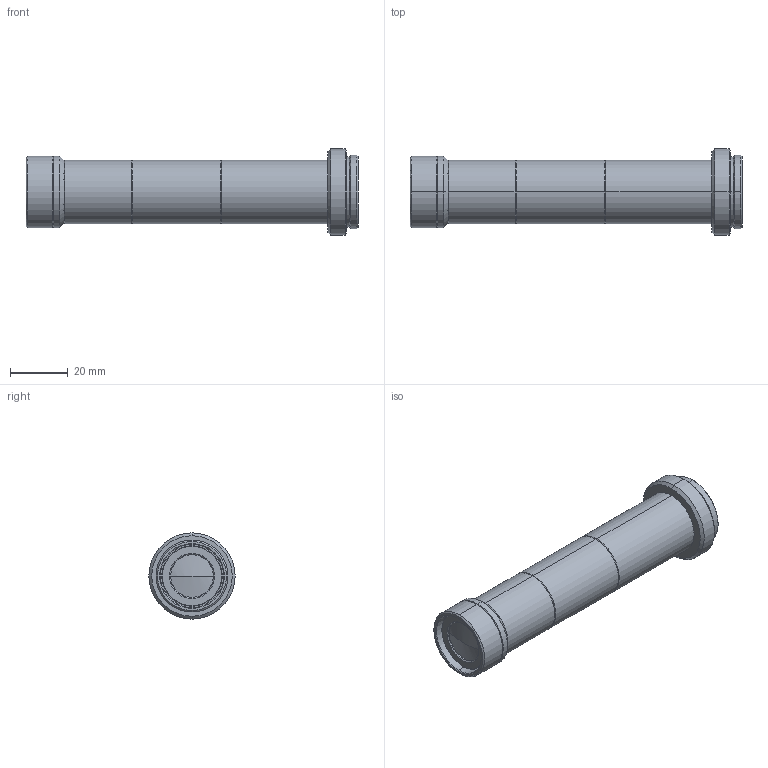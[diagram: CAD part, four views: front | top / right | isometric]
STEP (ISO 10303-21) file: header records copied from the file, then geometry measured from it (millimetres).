
FILE_DESCRIPTION (( 'STEP AP203' ), '1' );
FILE_NAME ('VS-TCH3-60.STEP', '2016-06-01T06:44:36', ( 'miura_vst' ), ( '' ), 'SwSTEP 2.0', 'SolidWorks 2016', '' );
FILE_SCHEMA (( 'CONFIG_CONTROL_DESIGN' ));
Length unit declared in the file: millimetre
Products named in the file (1): VS-TCH3-60
Bounding box: 115.4 x 30 x 30 mm (x, y, z)
Volume: 29321.5 mm3; surface area: 14925.1 mm2
Topology: 1 solids, 1 shells, 132 faces, 264 edges, 150 vertices
Faces by surface type: cone 70, cylinder 42, plane 16, sphere 4
Entity records: 3473 total; most frequent: DIRECTION 682, CARTESIAN_POINT 547, ORIENTED_EDGE 528, AXIS2_PLACEMENT_3D 285, EDGE_CURVE 264, CIRCLE 152, VERTEX_POINT 150, EDGE_LOOP 148
